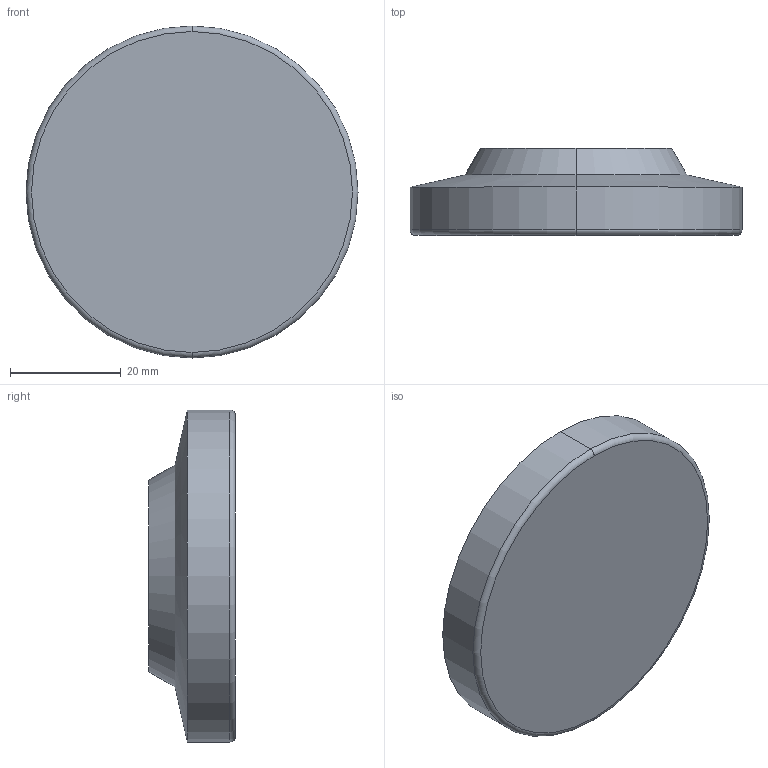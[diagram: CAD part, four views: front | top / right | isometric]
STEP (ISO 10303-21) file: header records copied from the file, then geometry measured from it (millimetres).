
FILE_DESCRIPTION (( 'STEP AP214' ), '1' );
FILE_NAME ('6311.3-60-15,5-N.step', '2023-04-17T05:34:36', ( '' ), ( '' ), 'SwSTEP 2.0', 'SolidWorks 2022', '' );
FILE_SCHEMA (( 'AUTOMOTIVE_DESIGN' ));
Length unit declared in the file: millimetre
Products named in the file (1): 6311.3-60-15,5-N
Bounding box: 60 x 15.7 x 60 mm (x, y, z)
Volume: 31334 mm3; surface area: 10098.4 mm2
Topology: 1 solids, 1 shells, 30 faces, 67 edges, 42 vertices
Faces by surface type: cylinder 12, torus 6, plane 6, cone 4, sphere 2
Entity records: 990 total; most frequent: CARTESIAN_POINT 176, DIRECTION 169, ORIENTED_EDGE 134, AXIS2_PLACEMENT_3D 75, EDGE_CURVE 67, CIRCLE 44, VERTEX_POINT 42, EDGE_LOOP 33
